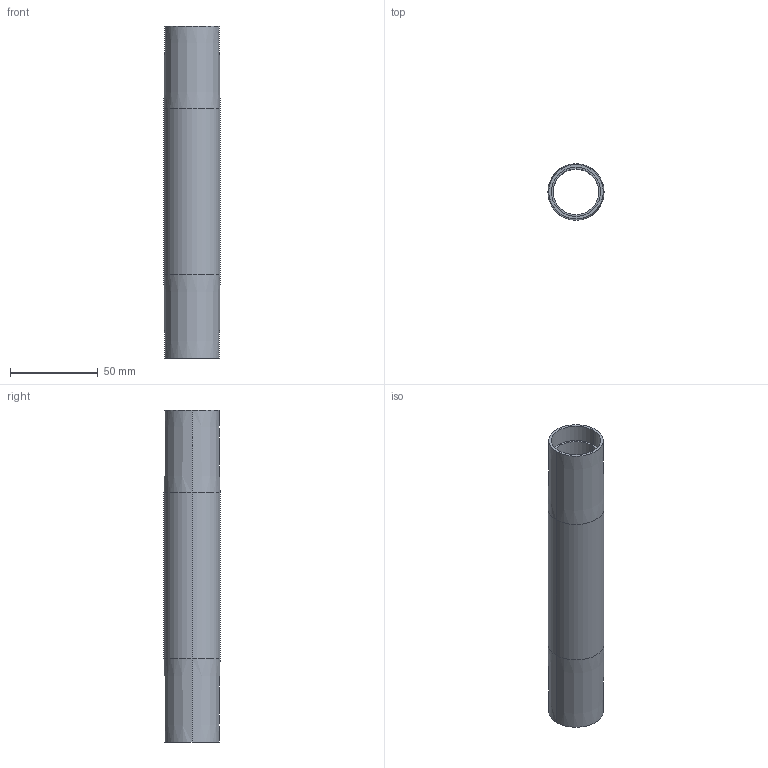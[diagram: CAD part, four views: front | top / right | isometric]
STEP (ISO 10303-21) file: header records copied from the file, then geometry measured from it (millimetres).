
FILE_DESCRIPTION (( 'STEP AP214' ), '1' );
FILE_NAME ('084.030.205.STEP', '2021-02-05T15:51:28', ( '' ), ( '' ), 'SwSTEP 2.0', 'SolidWorks 2018', '' );
FILE_SCHEMA (( 'AUTOMOTIVE_DESIGN' ));
Length unit declared in the file: millimetre
Products named in the file (1): 084.030.205
Bounding box: 32 x 32 x 189 mm (x, y, z)
Volume: 47610.4 mm3; surface area: 34863.6 mm2
Topology: 1 solids, 1 shells, 16 faces, 32 edges, 20 vertices
Faces by surface type: cylinder 8, cone 4, plane 4
Entity records: 462 total; most frequent: DIRECTION 86, CARTESIAN_POINT 69, ORIENTED_EDGE 64, AXIS2_PLACEMENT_3D 37, EDGE_CURVE 32, VERTEX_POINT 20, EDGE_LOOP 20, CIRCLE 20
